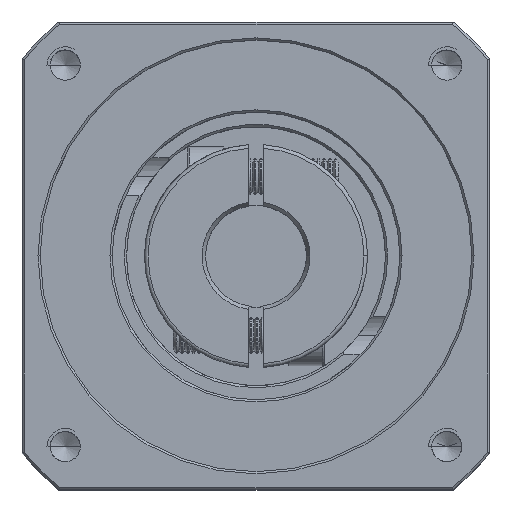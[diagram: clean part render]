
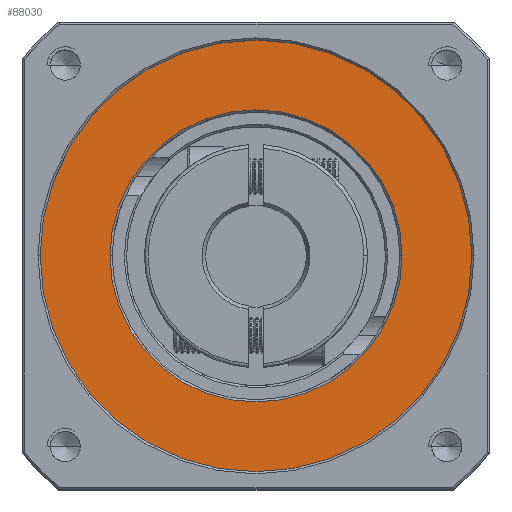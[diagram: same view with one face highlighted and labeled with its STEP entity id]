
A CAD part, top view. The second image highlights one B-rep face of the part: STEP entity #88030.
In plain terms, the highlighted planar face has unit normal (0, 0, 1).
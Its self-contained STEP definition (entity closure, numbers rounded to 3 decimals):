
#37 = CARTESIAN_POINT ( 'NONE',  ( -74.957, 22.264, 44.201 ) ) ;
#1043 = DIRECTION ( 'NONE',  ( 1., 0., 0. ) ) ;
#2956 = CIRCLE ( 'NONE', #93611, 20.3 ) ;
#8028 = DIRECTION ( 'NONE',  ( 1., 0., 0. ) ) ;
#9238 = AXIS2_PLACEMENT_3D ( 'NONE', #69983, #22740, #77813 ) ;
#13321 = ORIENTED_EDGE ( 'NONE', *, *, #26226, .T. ) ;
#13441 = EDGE_CURVE ( 'NONE', #93061, #58226, #89167, .T. ) ;
#22740 = DIRECTION ( 'NONE',  ( 0., 0., 1. ) ) ;
#24451 = EDGE_CURVE ( 'NONE', #77507, #75915, #63696, .T. ) ;
#26226 = EDGE_CURVE ( 'NONE', #58226, #93061, #70644, .T. ) ;
#30994 = EDGE_LOOP ( 'NONE', ( #13321, #90496 ) ) ;
#38271 = PLANE ( 'NONE',  #9238 ) ;
#38936 = CARTESIAN_POINT ( 'NONE',  ( -74.957, 22.264, 44.201 ) ) ;
#42641 = ORIENTED_EDGE ( 'NONE', *, *, #24451, .T. ) ;
#45868 = EDGE_LOOP ( 'NONE', ( #71721, #42641 ) ) ;
#46457 = CARTESIAN_POINT ( 'NONE',  ( -74.957, 22.264, 44.201 ) ) ;
#46858 = DIRECTION ( 'NONE',  ( 1., 0., 0. ) ) ;
#48316 = DIRECTION ( 'NONE',  ( 0., 0., -1. ) ) ;
#54375 = DIRECTION ( 'NONE',  ( 1., 0., 0. ) ) ;
#55300 = DIRECTION ( 'NONE',  ( 0., 0., -1. ) ) ;
#58226 = VERTEX_POINT ( 'NONE', #80128 ) ;
#59686 = AXIS2_PLACEMENT_3D ( 'NONE', #95180, #48316, #1043 ) ;
#63696 = CIRCLE ( 'NONE', #59686, 20.3 ) ;
#66492 = AXIS2_PLACEMENT_3D ( 'NONE', #38936, #93738, #46858 ) ;
#67406 = EDGE_CURVE ( 'NONE', #75915, #77507, #2956, .T. ) ;
#69983 = CARTESIAN_POINT ( 'NONE',  ( -74.957, 22.264, 44.201 ) ) ;
#70644 = CIRCLE ( 'NONE', #66492, 30. ) ;
#71680 = FACE_OUTER_BOUND ( 'NONE', #30994, .T. ) ;
#71721 = ORIENTED_EDGE ( 'NONE', *, *, #67406, .T. ) ;
#73336 = CARTESIAN_POINT ( 'NONE',  ( -104.957, 22.264, 44.201 ) ) ;
#75915 = VERTEX_POINT ( 'NONE', #76073 ) ;
#76073 = CARTESIAN_POINT ( 'NONE',  ( -54.657, 22.264, 44.201 ) ) ;
#77507 = VERTEX_POINT ( 'NONE', #86546 ) ;
#77813 = DIRECTION ( 'NONE',  ( 1., 0., 0. ) ) ;
#80128 = CARTESIAN_POINT ( 'NONE',  ( -44.957, 22.264, 44.201 ) ) ;
#86546 = CARTESIAN_POINT ( 'NONE',  ( -95.257, 22.264, 44.201 ) ) ;
#88030 = ADVANCED_FACE ( 'NONE', ( #92300, #71680 ), #38271, .T. ) ;
#89167 = CIRCLE ( 'NONE', #101699, 30. ) ;
#90496 = ORIENTED_EDGE ( 'NONE', *, *, #13441, .T. ) ;
#92300 = FACE_BOUND ( 'NONE', #45868, .T. ) ;
#93061 = VERTEX_POINT ( 'NONE', #73336 ) ;
#93611 = AXIS2_PLACEMENT_3D ( 'NONE', #37, #55300, #8028 ) ;
#93738 = DIRECTION ( 'NONE',  ( 0., 0., 1. ) ) ;
#95180 = CARTESIAN_POINT ( 'NONE',  ( -74.957, 22.264, 44.201 ) ) ;
#101109 = DIRECTION ( 'NONE',  ( 0., 0., 1. ) ) ;
#101699 = AXIS2_PLACEMENT_3D ( 'NONE', #46457, #101109, #54375 ) ;
